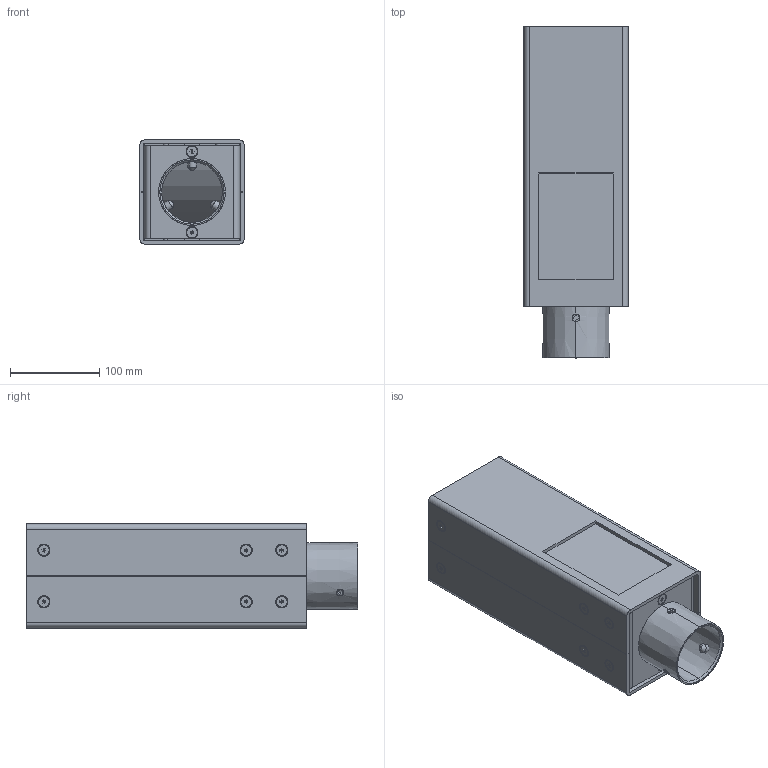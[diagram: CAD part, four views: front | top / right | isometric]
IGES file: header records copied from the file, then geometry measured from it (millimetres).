
Start section: SolidWorks IGES file using analytic representation for surfaces
Global section: file name: C:\SANTACOLE_PDM\Proyectos Catálogo\PROD-P14-007 -- PILONA LED\6_Técnico comercial\3D WEB\Pilona Skyline 35cm.IGS; native system: SolidWorks 2013; preprocessor: SolidWorks 2013; author: jordi.munoz; date: 150610.092319; units: millimetre
Bounding box: 117 x 372.5 x 117 mm (x, y, z)
Surface area: 605076 mm2 (no closed solid volume)
Topology: 0 solids, 0 shells, 762 faces, 6740 edges, 6740 vertices
Faces by surface type: bspline 390, revolution 372
